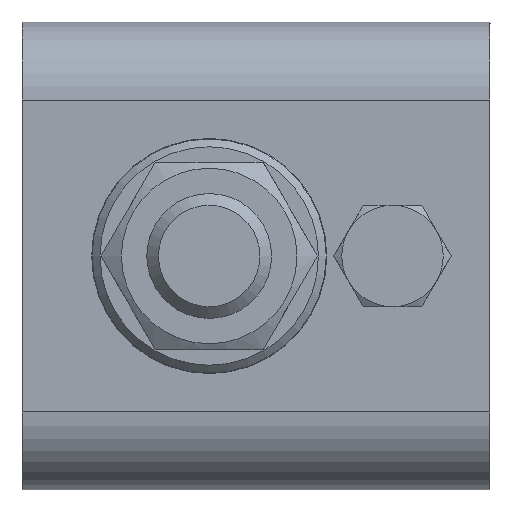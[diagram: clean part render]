
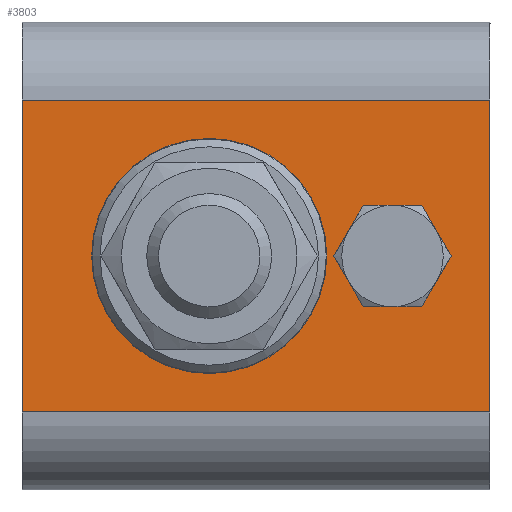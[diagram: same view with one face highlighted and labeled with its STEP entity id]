
A CAD part, left-side view. The second image highlights one B-rep face of the part: STEP entity #3803.
In plain terms, the highlighted planar face has unit normal (-1, 0, 0) as drawn and (0, 0, 1) by its records, which use the part's own axes.
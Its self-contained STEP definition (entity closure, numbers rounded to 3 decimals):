
#77=LINE('',#5814,#387);
#79=LINE('',#5818,#389);
#80=LINE('',#5820,#390);
#81=LINE('',#5821,#391);
#387=VECTOR('',#4567,60.);
#389=VECTOR('',#4571,40.);
#390=VECTOR('',#4572,60.);
#391=VECTOR('',#4573,40.);
#750=PLANE('',#4059);
#864=FACE_BOUND('',#1159,.T.);
#865=FACE_BOUND('',#1160,.T.);
#919=FACE_OUTER_BOUND('',#1158,.T.);
#1158=EDGE_LOOP('',(#2606,#2607,#2608,#2609));
#1159=EDGE_LOOP('',(#2610));
#1160=EDGE_LOOP('',(#2611));
#1435=CIRCLE('',#4060,3.324);
#1436=CIRCLE('',#4061,3.4);
#1658=VERTEX_POINT('',#5798);
#1661=VERTEX_POINT('',#5805);
#1663=VERTEX_POINT('',#5817);
#1664=VERTEX_POINT('',#5819);
#1665=VERTEX_POINT('',#5822);
#1666=VERTEX_POINT('',#5824);
#2033=EDGE_CURVE('',#1658,#1661,#77,.T.);
#2035=EDGE_CURVE('',#1661,#1663,#79,.T.);
#2036=EDGE_CURVE('',#1663,#1664,#80,.T.);
#2037=EDGE_CURVE('',#1664,#1658,#81,.T.);
#2038=EDGE_CURVE('',#1665,#1665,#1435,.T.);
#2039=EDGE_CURVE('',#1666,#1666,#1436,.T.);
#2606=ORIENTED_EDGE('',*,*,#2033,.T.);
#2607=ORIENTED_EDGE('',*,*,#2035,.T.);
#2608=ORIENTED_EDGE('',*,*,#2036,.T.);
#2609=ORIENTED_EDGE('',*,*,#2037,.T.);
#2610=ORIENTED_EDGE('',*,*,#2038,.T.);
#2611=ORIENTED_EDGE('',*,*,#2039,.T.);
#3803=ADVANCED_FACE('',(#919,#864,#865),#750,.T.);
#4059=AXIS2_PLACEMENT_3D('',#5816,#4569,#4570);
#4060=AXIS2_PLACEMENT_3D('',#5823,#4574,#4575);
#4061=AXIS2_PLACEMENT_3D('',#5825,#4576,#4577);
#4567=DIRECTION('',(0.,1.,0.));
#4569=DIRECTION('center_axis',(0.,0.,1.));
#4570=DIRECTION('ref_axis',(1.,0.,0.));
#4571=DIRECTION('',(-1.,0.,0.));
#4572=DIRECTION('',(0.,-1.,0.));
#4573=DIRECTION('',(1.,0.,0.));
#4574=DIRECTION('center_axis',(0.,0.,-1.));
#4575=DIRECTION('ref_axis',(1.,0.,0.));
#4576=DIRECTION('center_axis',(0.,0.,-1.));
#4577=DIRECTION('ref_axis',(-1.,0.,0.));
#5798=CARTESIAN_POINT('',(20.,-30.,0.));
#5805=CARTESIAN_POINT('',(20.,30.,0.));
#5814=CARTESIAN_POINT('',(20.,15.,0.));
#5816=CARTESIAN_POINT('Origin',(65.,0.,0.));
#5817=CARTESIAN_POINT('',(-20.,30.,0.));
#5818=CARTESIAN_POINT('',(81.679,30.,0.));
#5819=CARTESIAN_POINT('',(-20.,-30.,0.));
#5820=CARTESIAN_POINT('',(-20.,-15.,0.));
#5821=CARTESIAN_POINT('',(-81.679,-30.,0.));
#5822=CARTESIAN_POINT('',(3.324,-17.5,0.));
#5823=CARTESIAN_POINT('Origin',(0.,-17.5,0.));
#5824=CARTESIAN_POINT('',(3.4,17.5,0.));
#5825=CARTESIAN_POINT('Origin',(0.,17.5,0.));
